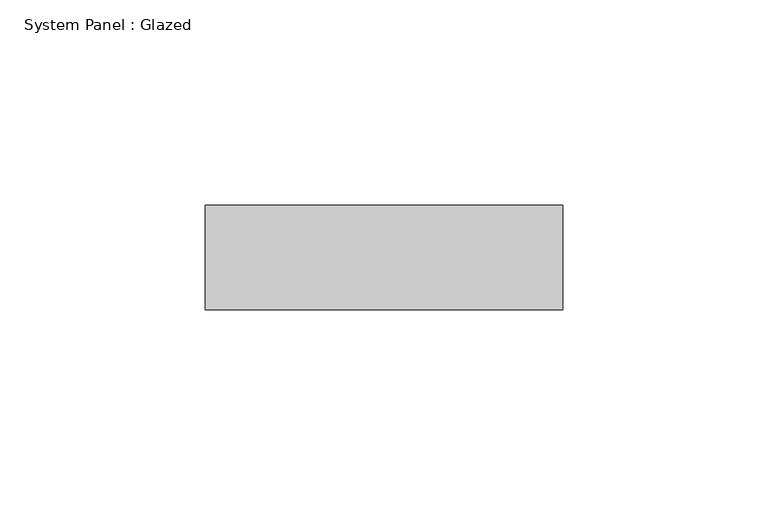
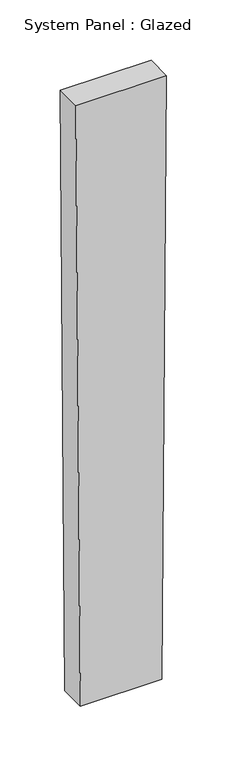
"""IFC4 building model written with IfcOpenShell, lengths in millimetres: plate geometry, System Panel : Glazed."""

from ifc_helpers import new_model, si_unit, frame, origin, place, context, project, spatial, polyline, outline, extrude, source, transform, mapped, element, save


def system_panel_glazed_607e1a56(model_context):
    return source(origin(), model_context, "Body", "SweptSolid", [
        extrude(outline(polyline([(0.0, -39.0044817), (0.0, 39.0044817), (609.5839234, 43.4317026), (609.5839234, -43.4317026), (0.0, -39.0044817)])), frame((0.0, -44.45, 0.0), z_axis=(0.0, 1.0, 0.0), x_axis=(0.0, 0.0, 1.0)), (0.0, 0.0, 1.0), 25.4),
    ])


if __name__ == "__main__":
    model = new_model("IFC4")
    model_context = context("Model", 3, world=origin())
    ifc_project = project(units=[si_unit("LENGTHUNIT", "METRE", prefix="MILLI")], contexts=[model_context])
    site = spatial("IfcSite", under=ifc_project)
    building = spatial("IfcBuilding", under=site)
    placement = place(None, origin())
    system_panel_glazed_shape = system_panel_glazed_607e1a56(model_context)
    element("IfcPlate", 1, ObjectType="System Panel : Glazed", at=placement, inside=building, context=model_context, shape_type="MappedRepresentation", body=[
        mapped(system_panel_glazed_shape, transform((0.0, 0.0, 0.0), x_axis=(1.0, 0.0, 0.0), y_axis=(0.0, 1.0, 0.0), z_axis=(0.0, 0.0, 1.0))),
    ])
    save(model, "model.ifc")
